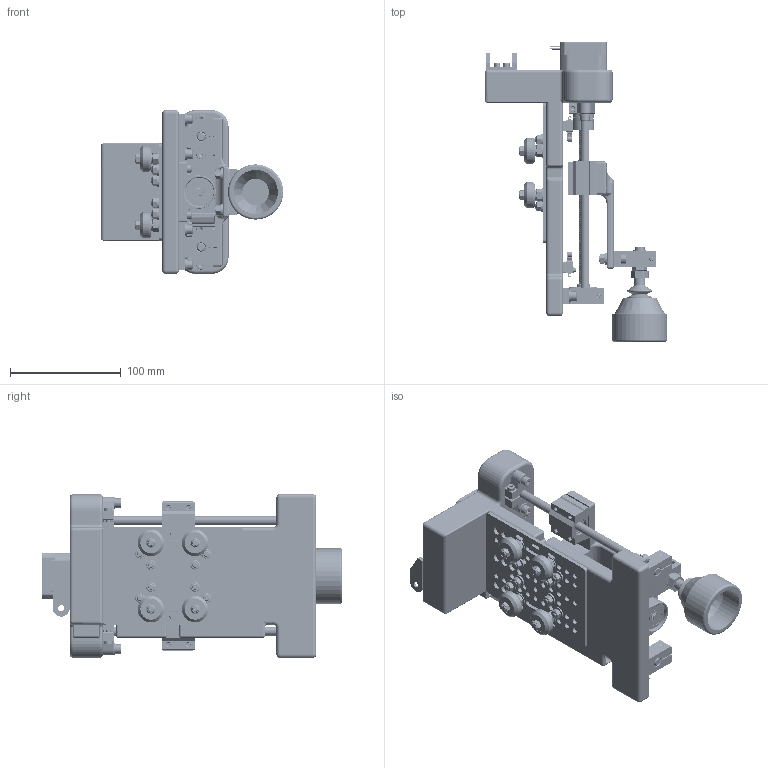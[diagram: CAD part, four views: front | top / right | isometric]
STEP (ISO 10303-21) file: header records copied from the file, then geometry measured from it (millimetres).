
FILE_DESCRIPTION(/* description */ (''),/* implementation_level */ '2;1');
FILE_NAME(/* name */ 'Z-Axis.stp',/* time_stamp */ '2026-11-15T11:09:34+02:00',/* author */ ('Ahmed'),/* organization */ (''),/* preprocessor_version */ 'ST-DEVELOPER v20.2',/* originating_system */ 'Autodesk Inventor 2027',/* authorisation */ '');
FILE_SCHEMA (('AUTOMOTIVE_DESIGN { 1 0 10303 214 3 1 1 }'));
Products named in the file (45): Z-Axis; 17HM15-0904S; Flexible_Shaft_Coupling_5_to_8mm v7; Z Bracket; Trapezoidal lead screw tr8x8-4; t8_nut_housing; SCS8UU Block, Linear Bearing, 8mm; M4 Insert; ISO 4762 - M3 x 16; Linear Bearing Spacer; T8 nut; SK12 SHAFT HOLDER; Suction Cup Fixation; Suction; Suction-ohne-nippel; nippel; ISO 4762 - M4 x 8; Product Base; IPCF06-02; body; release_ring; ISO 4762 - M4 x 12; Document; ISO 4762 - M3 x 12; ANSI B18.22M - 3 N; Limit Switch Spacer; NO/NC Bump Switch; ISO 4032 - M2; ISO 4762 - M2 x 16; ANSI B18.22M - 2 N; 127x88 Gantry; V-Pulley; ISO 4032 - M5; KP08 Pillow block bearing 08mm diameter; Bearing Spacer; ISO 4762 - M4 x 16; Linear Guide Rods; SHF8; SHF8_MIR; SK8 Linear Shaft Support, 8mm v4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
Assembly tree (132 placements, depth 3):
  Z-Axis
    SCS8UU Block, Linear Bearing, 8mm  x2
    17HM15-0904S
    Flexible_Shaft_Coupling_5_to_8mm v7
    Z Bracket
    Trapezoidal lead screw tr8x8-4
    t8_nut_housing
    M4 Insert  x2
    ISO 4762 - M3 x 16  x4
    Linear Bearing Spacer  x2
    T8 nut
    ISO 4762 - M3 x 12  x4
    SK12 SHAFT HOLDER
    Suction Cup Fixation
    Suction
      Suction-ohne-nippel
      nippel
    ISO 4762 - M4 x 12  x8
    ISO 4762 - M4 x 8  x2
    ISO 4762 - M4 x 16  x5
    ISO 4762 - M5 x 20  x14
    Product Base
    IPCF06-02
      body
      release_ring
    ISO 4032 - M5  x10
    ANSI B18.22M - 5 N  x18
    Limit Switch Spacer  x2
    Document  x2
    ANSI B18.22M - 3 N  x2
    ANSI B18.22M - 2 N  x4
    NO/NC Bump Switch  x2
    ISO 4032 - M2  x4
    ISO 4762 - M2 x 16  x4
    127x88 Gantry
    V-Pulley  x4
    KP08 Pillow block bearing 08mm diameter
    Bearing Spacer
    Linear Guide Rods  x2
    SHF8
    SHF8_MIR
    SK8 Linear Shaft Support, 8mm v4  x2
    Document_1  x8
    ISO 4762 - M5 x 16  x4
    Bloc 02
Bounding box: 165.22 x 271.33 x 148 mm (x, y, z)
Volume: 995626.3 mm3; surface area: 324181.4 mm2
Topology: 191 solids, 191 shells, 6172 faces, 15951 edges, 10366 vertices
Faces by surface type: cylinder 2347, plane 2115, bspline 1071, cone 397, torus 203, sphere 39
Full cylindrical faces by diameter (mm): 0.25 x6, 0.559 x4, 1.567 x4, 1.615 x4, 1.7 x8, 1.8 x6, 2 x4, 2.3 x4, 2.35 x46, 2.4 x4, 2.459 x38, 2.5 x22, 2.529 x42, 3 x98, 3.091 x26, 3.242 x36, 3.332 x96, 3.5 x10, 3.8 x4, 3.961 x80, 4 x95, 4.1 x4, 4.109 x110, 4.134 x10, 4.5 x24, 4.62 x2, 5 x189, 5.2 x4, 5.3 x2, 5.5 x29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
Entity records: 234265 total; most frequent: CARTESIAN_POINT 156986, ORIENTED_EDGE 16550, DIRECTION 14196, EDGE_CURVE 8275, VERTEX_POINT 5384, AXIS2_PLACEMENT_3D 5309, EDGE_LOOP 3693, LINE 3578
